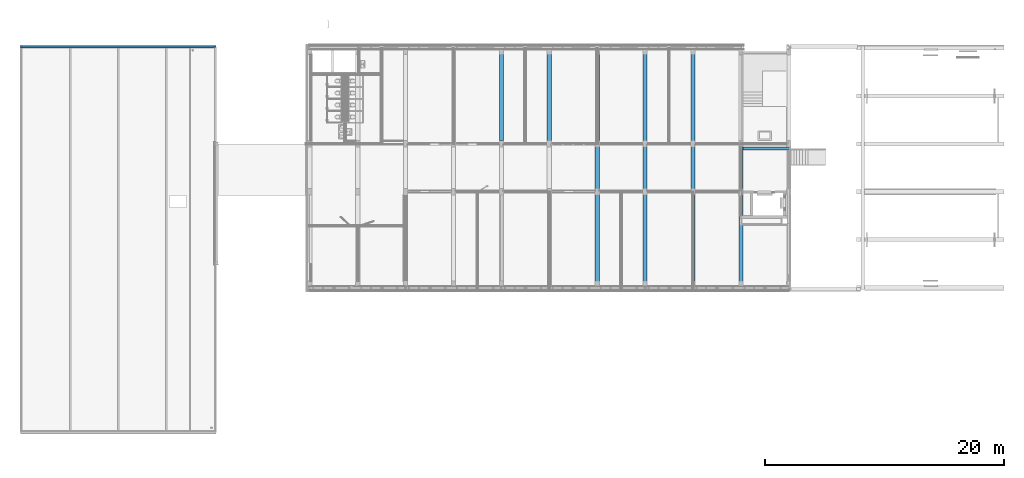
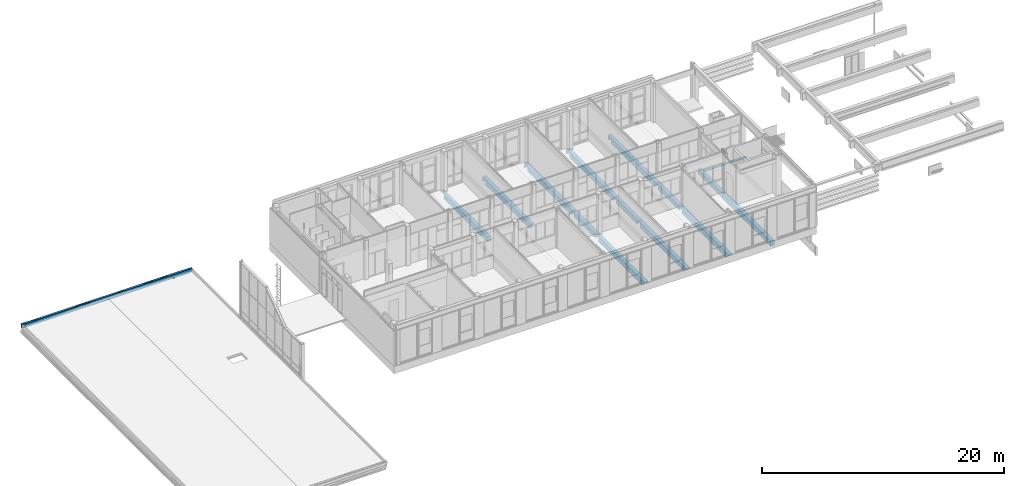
# One storey, part 9 of 54: 17 beams.
"""IFC2X3 building model written with IfcOpenShell, lengths in millimetres."""

import ifcopenshell
import ifcopenshell.guid

model = None  # the IFC model being written
_history = None  # IfcOwnerHistory: only IFC2X3 demands one
_inside = {}  # id of a spatial element -> (the spatial element, [elements in it])
_under = {}  # id of a project, library or spatial element -> (it, [spatial elements below it])
_declared = {}  # id of a project -> (the project, [libraries it declares])
_typed = {}  # id of a type object -> (the type object, [elements of that type])
_made_of = {}  # id of a material, layer set ... -> (it, [elements and type objects made of it])


def new_model(schema):
    """Start an empty IFC model of exactly this schema.

    Asked for "IFC4X3", IfcOpenShell would pick the latest addendum, in which some entities
    have other attributes; the version numbers below select the first issue.
    IFC2X3 requires an IfcOwnerHistory on every rooted entity: one is made here for all.
    """
    global model, _history
    if schema == "IFC4X3":
        model = ifcopenshell.file(schema_version=(4, 3, 0, 0))
    else:
        model = ifcopenshell.file(schema=schema)
    _inside.clear()
    _under.clear()
    _declared.clear()
    _typed.clear()
    _made_of.clear()
    _history = None
    if model.schema == "IFC2X3":
        org = make("IfcOrganization", Name="unknown")
        user = make(
            "IfcPersonAndOrganization",
            ThePerson=make("IfcPerson", FamilyName="unknown"),
            TheOrganization=org,
        )
        app = make(
            "IfcApplication",
            ApplicationDeveloper=org,
            Version="unknown",
            ApplicationFullName="unknown",
            ApplicationIdentifier="unknown",
        )
        _history = make(
            "IfcOwnerHistory",
            OwningUser=user,
            OwningApplication=app,
            ChangeAction="ADDED",
            CreationDate=0,
        )
    return model


def make(cls, **values):
    """One entity of the class cls with the attributes given. An attribute that is None is left unset."""
    return model.create_entity(
        cls, **{name: value for name, value in values.items() if value is not None}
    )


def entity(cls, *values):
    """Any entity or typed value of the class cls, its attributes in the order of the schema. None: left unset."""
    e = model.create_entity(cls)
    for i, value in enumerate(values):
        if value is not None:
            e[i] = value
    return e


def rooted(cls, **values):
    """An entity with a GlobalId (a new one), such as an element, a storey or a relation."""
    return make(cls, GlobalId=ifcopenshell.guid.new(), OwnerHistory=_history, **values)


def si_unit(unit_type, name, prefix=None):
    """IfcSIUnit, for example si_unit("LENGTHUNIT", "METRE", prefix="MILLI")."""
    return make("IfcSIUnit", UnitType=unit_type, Prefix=prefix, Name=name)


def converted_unit(unit_type, name, factor, base, dimensions=None, offset=None):
    """IfcConversionBasedUnit, such as the inch: factor (a typed value) times the base unit."""
    return make(
        "IfcConversionBasedUnit"
        if offset is None
        else "IfcConversionBasedUnitWithOffset",
        ConversionOffset=offset,
        Dimensions=None
        if dimensions is None
        else entity("IfcDimensionalExponents", *dimensions),
        UnitType=unit_type,
        Name=name,
        ConversionFactor=make(
            "IfcMeasureWithUnit", ValueComponent=factor, UnitComponent=base
        ),
    )


def derived_unit(unit_type, elements):
    """IfcDerivedUnit: a product of units, each with its exponent."""
    return make(
        "IfcDerivedUnit",
        Elements=[
            make("IfcDerivedUnitElement", Unit=unit, Exponent=power)
            for unit, power in elements
        ],
        UnitType=unit_type,
    )


def money_unit(currency):
    """IfcMonetaryUnit."""
    return make("IfcMonetaryUnit", Currency=currency)


def assignment(units):
    """IfcUnitAssignment: the units of a project."""
    return None if units is None else make("IfcUnitAssignment", Units=units)


def point(xyz):
    """IfcCartesianPoint."""
    return None if xyz is None else make("IfcCartesianPoint", Coordinates=xyz)


def direction(xyz):
    """IfcDirection."""
    return None if xyz is None else make("IfcDirection", DirectionRatios=xyz)


def frame(location, z_axis=None, x_axis=None):
    """IfcAxis2Placement3D, a coordinate frame: its origin and axes. An axis left out is left unset."""
    return make(
        "IfcAxis2Placement3D",
        Location=point(location),
        Axis=direction(z_axis),
        RefDirection=direction(x_axis),
    )


def origin_with_axes():
    """The frame at (0, 0, 0) with the z axis (0, 0, 1) and the x axis (1, 0, 0) written out."""
    return frame((0.0, 0.0, 0.0), z_axis=(0.0, 0.0, 1.0), x_axis=(1.0, 0.0, 0.0))


def place(relative_to, where):
    """IfcLocalPlacement: puts the frame where relative to a parent placement (None: the world)."""
    return make(
        "IfcLocalPlacement", PlacementRelTo=relative_to, RelativePlacement=where
    )


def context(
    kind, dimensions, precision=None, world=None, true_north=None, identifier=None
):
    """IfcGeometricRepresentationContext, for example the 3D "Model" context."""
    return make(
        "IfcGeometricRepresentationContext",
        ContextIdentifier=identifier,
        ContextType=kind,
        CoordinateSpaceDimension=dimensions,
        Precision=precision,
        WorldCoordinateSystem=world,
        TrueNorth=true_north,
    )


def subcontext(parent, identifier, kind, view, scale=None):
    """IfcGeometricRepresentationSubContext, for example "Body" below "Model"."""
    return make(
        "IfcGeometricRepresentationSubContext",
        ContextIdentifier=identifier,
        ContextType=kind,
        ParentContext=parent,
        TargetScale=scale,
        TargetView=view,
    )


def project(units=None, contexts=None):
    """IfcProject with its units and contexts."""
    return rooted(
        "IfcProject",
        Name="project",
        RepresentationContexts=contexts,
        UnitsInContext=assignment(units),
    )


def spatial(cls, under=None, at=None, **own):
    """A site, building, storey or space (cls), placed at a placement, below another one or the project."""
    s = rooted(cls, ObjectPlacement=at, **own)
    if under is not None:
        _under.setdefault(under.id(), (under, []))[1].append(s)
    return s


def faces_of(points, faces, orient=None, outer=None):
    """IfcFace entities. A face is a list of loops; a loop is a list of indices into points, from 0.

    orient and outer hold one flag for each loop. By default every Orientation is true, the
    first loop of a face is its IfcFaceOuterBound and the others are IfcFaceBound.
    """
    made = []
    for i, loops in enumerate(faces):
        bounds = []
        for j, loop in enumerate(loops):
            is_outer = j == 0 if outer is None else outer[i][j]
            bounds.append(
                make(
                    "IfcFaceOuterBound" if is_outer else "IfcFaceBound",
                    Bound=make("IfcPolyLoop", Polygon=[points[k] for k in loop]),
                    Orientation=True if orient is None else orient[i][j],
                )
            )
        made.append(make("IfcFace", Bounds=bounds))
    return made


def faceted_brep(points, faces, orient=None, outer=None, voids=None):
    """IfcFacetedBrep: a solid bounded by flat faces; with voids (closed shells), ...WithVoids."""
    shared = [point(p) for p in points]
    hull = make("IfcClosedShell", CfsFaces=faces_of(shared, faces, orient, outer))
    if voids is None:
        return make("IfcFacetedBrep", Outer=hull)
    return make(
        "IfcFacetedBrepWithVoids",
        Outer=hull,
        Voids=[
            make(cls, CfsFaces=faces_of(shared, fs, o, b)) for cls, fs, o, b in voids
        ],
    )


def shape(context_of_items, identifier, shape_type, items):
    """IfcShapeRepresentation: the items that make up one representation, for example the "Body"."""
    return make(
        "IfcShapeRepresentation",
        ContextOfItems=context_of_items,
        RepresentationIdentifier=identifier,
        RepresentationType=shape_type,
        Items=items,
    )


def material(Name=None, Category=None):
    """IfcMaterial."""
    return make("IfcMaterial", Name=Name, Category=Category)


def made_of(thing, what):
    """Note that an element or type object is made of a material, layer set ...; save() writes the relation."""
    if what is not None:
        _made_of.setdefault(what.id(), (what, []))[1].append(thing)
    return thing


def type_object(cls, material=None, **own):
    """A type object (cls), such as IfcWallType, which elements share."""
    return made_of(rooted(cls, **own), material)


def element(
    cls,
    number,
    at=None,
    inside=None,
    cuts=None,
    type_object=None,
    material=None,
    context=None,
    identifier="Body",
    shape_type=None,
    held_by="IfcProductDefinitionShape",
    body=None,
    shapes=None,
    **own,
):
    """One element of the class cls, such as IfcWall. Its Tag is "e" and its number.

    at: its placement. inside: the storey or other place that contains it. cuts: it is an
    opening in that element (IfcRelVoidsElement). A single representation is given by context,
    identifier, shape_type and body (its items); several are given by shapes. held_by: the class
    of the entity that holds the representations. save() writes the other relations.
    """
    e = rooted(cls, Tag="e%d" % number, ObjectPlacement=at, **own)
    if body is not None:
        shapes = [shape(context, identifier, shape_type, body)]
    if shapes is not None:
        e.Representation = make(held_by, Representations=shapes)
    if inside is not None:
        _inside.setdefault(inside.id(), (inside, []))[1].append(e)
    if cuts is not None:
        rooted(
            "IfcRelVoidsElement", RelatingBuildingElement=cuts, RelatedOpeningElement=e
        )
    if type_object is not None:
        _typed.setdefault(type_object.id(), (type_object, []))[1].append(e)
    return made_of(e, material)


def aggregate(whole, parts):
    """IfcRelAggregates: a whole, such as a stair, and the parts it consists of."""
    return rooted("IfcRelAggregates", RelatingObject=whole, RelatedObjects=parts)


def save(model, path):
    """Write the relations noted so far, then the file.

    IfcRelAggregates (storeys below a building ...), IfcRelContainedInSpatialStructure (elements
    in a storey), IfcRelDefinesByType, IfcRelAssociatesMaterial and IfcRelDeclares: one each for
    every whole, place, type object, material and project.
    """
    for whole, parts in _under.values():
        aggregate(whole, parts)
    for where, things in _inside.values():
        rooted(
            "IfcRelContainedInSpatialStructure",
            RelatedElements=things,
            RelatingStructure=where,
        )
    for kind, things in _typed.values():
        rooted("IfcRelDefinesByType", RelatedObjects=things, RelatingType=kind)
    for what, things in _made_of.values():
        rooted("IfcRelAssociatesMaterial", RelatedObjects=things, RelatingMaterial=what)
    for by, libraries in _declared.values():
        rooted("IfcRelDeclares", RelatingContext=by, RelatedDefinitions=libraries)
    model.write(path)


model = new_model("IFC2X3")

# Units and contexts
model_context = context("Model", 3, precision=0.01, world=origin_with_axes(), true_north=direction((0.0, 1.0)))
body_context = subcontext(model_context, "Body", "Model", "MODEL_VIEW")
ifc_project = project(units=[si_unit("LENGTHUNIT", "METRE", prefix="MILLI"), si_unit("AREAUNIT", "SQUARE_METRE"), si_unit("VOLUMEUNIT", "CUBIC_METRE"), converted_unit("PLANEANGLEUNIT", "DEGREE", entity("IfcPlaneAngleMeasure", 0.0174532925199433), si_unit("PLANEANGLEUNIT", "RADIAN"), dimensions=[0, 0, 0, 0, 0, 0, 0]), money_unit("EUR"), converted_unit("TIMEUNIT", "Year", entity("IfcTimeMeasure", 31557600.0), si_unit("TIMEUNIT", "SECOND"), dimensions=[0, 0, 1, 0, 0, 0, 0]), si_unit("MASSUNIT", "GRAM", prefix="KILO"), si_unit("THERMODYNAMICTEMPERATUREUNIT", "DEGREE_CELSIUS"), si_unit("LUMINOUSINTENSITYUNIT", "LUMEN"), si_unit("ENERGYUNIT", "JOULE", prefix="MEGA"), derived_unit("THERMALCONDUCTANCEUNIT", [(si_unit("POWERUNIT", "WATT"), 1), (si_unit("LENGTHUNIT", "METRE"), -1), (si_unit("THERMODYNAMICTEMPERATUREUNIT", "KELVIN"), -1)]), derived_unit("SPECIFICHEATCAPACITYUNIT", [(si_unit("ENERGYUNIT", "JOULE"), 1), (si_unit("MASSUNIT", "GRAM", prefix="KILO"), -1), (si_unit("THERMODYNAMICTEMPERATUREUNIT", "KELVIN"), -1)]), derived_unit("MASSDENSITYUNIT", [(si_unit("MASSUNIT", "GRAM", prefix="KILO"), 1), (si_unit("VOLUMEUNIT", "CUBIC_METRE"), -1)])], contexts=[model_context])

# Site, building, storey
site_placement = place(None, origin_with_axes())
site = spatial("IfcSite", under=ifc_project, at=site_placement, Name="<site naam>", CompositionType="ELEMENT")
building_placement = place(site_placement, origin_with_axes())
building = spatial("IfcBuilding", under=site, at=building_placement, Name="<Naam gebouw>", CompositionType="ELEMENT")
storey_placement = place(building_placement, frame((0.0, 0.0, 8500.0), z_axis=(0.0, 0.0, 1.0), x_axis=(1.0, 0.0, 0.0)))
storey = spatial("IfcBuildingStorey", under=building, at=storey_placement, Name="02 2e verdieping", CompositionType="ELEMENT", Elevation=8500.0)

# Beams
ifc_material_1 = material(Name="beton_gewapend C")
beam_type_1 = type_object("IfcBeamType", Name="beton_gewapend C 350 x 650", PredefinedType="BEAM")
beam_1_placement = place(storey_placement, frame((32000.00000000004, 20005.54614990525, -30.00000000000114), z_axis=(0.0, 0.0, 1.0), x_axis=(-1.0, 0.0, 0.0)))
element("IfcBeam", 1, at=beam_1_placement, inside=storey, type_object=beam_type_1, material=ifc_material_1, Name="28_Balk_beton_gewapend", ObjectType="BEAM", context=body_context, shape_type="Brep", body=[
    faceted_brep([(-174.9999999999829, 7999.999999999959, -169.9999999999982), (-174.9999999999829, 7730.546149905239, -169.9999999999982), (-174.9999999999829, 7730.546149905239, -650.0000000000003), (-174.9999999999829, 555.546149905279, -650.0000000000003), (-174.9999999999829, 555.546149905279, -169.9999999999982), (-174.9999999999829, 5.546149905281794, -169.9999999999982), (-174.9999999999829, 5.546149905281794, -650.0000000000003), (-174.9999999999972, 0.0, -650.0000000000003), (-174.9999999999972, 0.0, -119.9999999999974), (-175.0000000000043, 7999.999999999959, -119.9999999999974), (175.0000000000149, 7730.546149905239, -169.9999999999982), (175.0000000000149, 7999.999999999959, -169.9999999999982), (175.0000000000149, 7730.546149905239, -650.0000000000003), (175.0000000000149, 555.546149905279, -650.0000000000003), (175.0000000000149, 555.546149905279, -169.9999999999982), (175.0000000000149, 5.546149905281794, -169.9999999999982), (175.0000000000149, 5.546149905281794, -650.0000000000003), (175.0000000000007, 0.0, -650.0000000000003), (175.0000000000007, 0.0, -119.9999999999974), (175.0000000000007, 7999.999999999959, -119.9999999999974)], [[[0, 1, 2, 3, 4, 5, 6, 7, 8, 9]], [[10, 1, 0, 11]], [[12, 2, 1, 10]], [[3, 2, 12, 13]], [[14, 4, 3, 13]], [[15, 5, 4, 14]], [[16, 6, 5, 15]], [[7, 6, 16, 17]], [[7, 17, 18, 8]], [[18, 19, 9, 8]], [[19, 11, 0, 9]], [[12, 10, 11, 19, 18, 17, 16, 15, 14, 13]]]),
])
beam_2_placement = place(storey_placement, frame((28000.00000000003, 19999.99999999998, -30.00000000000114), z_axis=(0.0, 0.0, 1.0), x_axis=(-1.0, 0.0, 0.0)))
element("IfcBeam", 2, at=beam_2_placement, inside=storey, type_object=beam_type_1, material=ifc_material_1, Name="28_Balk_beton_gewapend", ObjectType="BEAM", context=body_context, shape_type="Brep", body=[
    faceted_brep([(175.0000000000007, 0.0, -119.9999999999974), (175.0000000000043, 7724.999999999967, -119.9999999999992), (-174.9999999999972, 7724.999999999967, -119.9999999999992), (-175.0000000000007, 0.0, -119.9999999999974), (175.0000000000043, 550.0000000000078, -650.0000000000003), (175.0000000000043, 7724.999999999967, -650.0000000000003), (175.0000000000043, 0.0, -169.9999999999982), (175.0000000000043, 550.0000000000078, -169.9999999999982), (-174.9999999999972, 7724.999999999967, -650.0000000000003), (-174.9999999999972, 550.0000000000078, -650.0000000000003), (-174.9999999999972, 550.0000000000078, -169.9999999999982), (-174.9999999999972, 0.0, -169.9999999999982)], [[[0, 1, 2, 3]], [[4, 5, 1, 0, 6, 7]], [[5, 8, 2, 1]], [[3, 2, 8, 9, 10, 11]], [[3, 11, 6, 0]], [[9, 8, 5, 4]], [[7, 6, 11, 10]], [[7, 10, 9, 4]]]),
])
beam_3_placement = place(storey_placement, frame((40000.00000000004, 20005.54614990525, -30.00000000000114), z_axis=(0.0, 0.0, 1.0), x_axis=(-1.0, 0.0, 0.0)))
element("IfcBeam", 3, at=beam_3_placement, inside=storey, type_object=beam_type_1, material=ifc_material_1, Name="28_Balk_beton_gewapend", ObjectType="BEAM", context=body_context, shape_type="Brep", body=[
    faceted_brep([(-174.9999999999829, 7999.999999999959, -169.9999999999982), (-174.9999999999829, 7730.546149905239, -169.9999999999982), (-174.9999999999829, 7730.546149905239, -650.0000000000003), (-174.9999999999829, 555.546149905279, -650.0000000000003), (-174.9999999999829, 555.546149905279, -169.9999999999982), (-174.9999999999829, 5.546149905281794, -169.9999999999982), (-174.9999999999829, 5.546149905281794, -650.0000000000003), (-174.9999999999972, 0.0, -650.0000000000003), (-174.9999999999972, 0.0, -119.9999999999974), (-175.0000000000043, 7999.999999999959, -119.9999999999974), (175.0000000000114, 7730.546149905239, -169.9999999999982), (175.0000000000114, 7999.999999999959, -169.9999999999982), (175.0000000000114, 7730.546149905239, -650.0000000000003), (175.0000000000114, 555.546149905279, -650.0000000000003), (175.0000000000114, 555.546149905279, -169.9999999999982), (175.0000000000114, 5.546149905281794, -169.9999999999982), (175.0000000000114, 5.546149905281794, -650.0000000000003), (174.9999999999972, 0.0, -650.0000000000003), (174.9999999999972, 0.0, -119.9999999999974), (174.9999999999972, 7999.999999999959, -119.9999999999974)], [[[0, 1, 2, 3, 4, 5, 6, 7, 8, 9]], [[10, 1, 0, 11]], [[12, 2, 1, 10]], [[3, 2, 12, 13]], [[14, 4, 3, 13]], [[15, 5, 4, 14]], [[16, 6, 5, 15]], [[7, 6, 16, 17]], [[7, 17, 18, 8]], [[18, 19, 9, 8]], [[19, 11, 0, 9]], [[12, 10, 11, 19, 18, 17, 16, 15, 14, 13]]]),
])
beam_4_placement = place(storey_placement, frame((44000.00000000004, 8000.000000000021, -30.00000000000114), z_axis=(0.0, 0.0, 1.0), x_axis=(-1.0, 0.0, 0.0)))
element("IfcBeam", 4, at=beam_4_placement, inside=storey, type_object=beam_type_1, material=ifc_material_1, Name="28_Balk_beton_gewapend", ObjectType="BEAM", context=body_context, shape_type="Brep", body=[
    faceted_brep([(-174.9999999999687, 7994.453850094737, -169.9999999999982), (-174.9999999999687, 7450.000000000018, -169.9999999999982), (-174.9999999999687, 7450.000000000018, -650.0000000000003), (-174.9999999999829, 275.000000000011, -650.0000000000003), (-174.9999999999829, 275.000000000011, -169.9999999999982), (-174.9999999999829, 0.0, -169.9999999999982), (-174.9999999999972, 0.0, -119.9999999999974), (-175.0000000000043, 7994.453850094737, -119.9999999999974), (175.0000000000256, 7450.000000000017, -169.9999999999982), (175.0000000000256, 7994.453850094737, -169.9999999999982), (175.0000000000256, 7450.000000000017, -650.0000000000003), (175.0000000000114, 275.000000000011, -650.0000000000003), (175.0000000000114, 275.000000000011, -169.9999999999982), (175.0000000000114, 0.0, -169.9999999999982), (174.9999999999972, 0.0, -119.9999999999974), (174.9999999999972, 7994.453850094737, -119.9999999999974)], [[[0, 1, 2, 3, 4, 5, 6, 7]], [[8, 1, 0, 9]], [[10, 2, 1, 8]], [[3, 2, 10, 11]], [[12, 4, 3, 11]], [[12, 13, 5, 4]], [[6, 5, 13, 14]], [[14, 15, 7, 6]], [[15, 9, 0, 7]], [[10, 8, 9, 15, 14, 13, 12, 11]]]),
])
beam_5_placement = place(storey_placement, frame((36000.00000000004, 8000.000000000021, -30.00000000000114), z_axis=(0.0, 0.0, 1.0), x_axis=(-1.0, 0.0, 0.0)))
element("IfcBeam", 5, at=beam_5_placement, inside=storey, type_object=beam_type_1, material=ifc_material_1, Name="28_Balk_beton_gewapend", ObjectType="BEAM", context=body_context, shape_type="Brep", body=[
    faceted_brep([(-174.9999999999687, 7994.453850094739, -169.9999999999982), (-174.9999999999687, 7450.000000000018, -169.9999999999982), (-174.9999999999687, 7450.000000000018, -650.0000000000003), (-174.9999999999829, 275.000000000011, -650.0000000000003), (-174.9999999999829, 275.000000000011, -169.9999999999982), (-174.9999999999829, 0.0, -169.9999999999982), (-174.9999999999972, 0.0, -119.9999999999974), (-175.0000000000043, 7994.453850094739, -119.9999999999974), (175.0000000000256, 7450.000000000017, -169.9999999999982), (175.0000000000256, 7994.453850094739, -169.9999999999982), (175.0000000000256, 7450.000000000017, -650.0000000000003), (175.0000000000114, 275.000000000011, -650.0000000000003), (175.0000000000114, 275.000000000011, -169.9999999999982), (175.0000000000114, 0.0, -169.9999999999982), (174.9999999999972, 0.0, -119.9999999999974), (174.9999999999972, 7994.453850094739, -119.9999999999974)], [[[0, 1, 2, 3, 4, 5, 6, 7]], [[8, 1, 0, 9]], [[10, 2, 1, 8]], [[3, 2, 10, 11]], [[12, 4, 3, 11]], [[12, 13, 5, 4]], [[6, 5, 13, 14]], [[14, 15, 7, 6]], [[15, 9, 0, 7]], [[10, 8, 9, 15, 14, 13, 12, 11]]]),
])
beam_6_placement = place(storey_placement, frame((44000.00000000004, 20005.54614990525, -30.00000000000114), z_axis=(0.0, 0.0, 1.0), x_axis=(-1.0, 0.0, 0.0)))
element("IfcBeam", 6, at=beam_6_placement, inside=storey, type_object=beam_type_1, material=ifc_material_1, Name="28_Balk_beton_gewapend", ObjectType="BEAM", context=body_context, shape_type="Brep", body=[
    faceted_brep([(-174.9999999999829, 7999.999999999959, -169.9999999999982), (-174.9999999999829, 7730.546149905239, -169.9999999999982), (-174.9999999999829, 7730.546149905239, -650.0000000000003), (-174.9999999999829, 555.546149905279, -650.0000000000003), (-174.9999999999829, 555.546149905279, -169.9999999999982), (-174.9999999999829, 5.546149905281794, -169.9999999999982), (-174.9999999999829, 5.546149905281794, -650.0000000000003), (-174.9999999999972, 0.0, -650.0000000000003), (-174.9999999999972, 0.0, -119.9999999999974), (-175.0000000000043, 7999.999999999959, -119.9999999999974), (175.0000000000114, 7730.546149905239, -169.9999999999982), (175.0000000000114, 7999.999999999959, -169.9999999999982), (175.0000000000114, 7730.546149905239, -650.0000000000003), (175.0000000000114, 555.546149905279, -650.0000000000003), (175.0000000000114, 555.546149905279, -169.9999999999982), (175.0000000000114, 5.546149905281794, -169.9999999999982), (175.0000000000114, 5.546149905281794, -650.0000000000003), (174.9999999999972, 0.0, -650.0000000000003), (174.9999999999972, 0.0, -119.9999999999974), (174.9999999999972, 7999.999999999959, -119.9999999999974)], [[[0, 1, 2, 3, 4, 5, 6, 7, 8, 9]], [[10, 1, 0, 11]], [[12, 2, 1, 10]], [[3, 2, 12, 13]], [[14, 4, 3, 13]], [[15, 5, 4, 14]], [[16, 6, 5, 15]], [[7, 6, 16, 17]], [[7, 17, 18, 8]], [[18, 19, 9, 8]], [[19, 11, 0, 9]], [[12, 10, 11, 19, 18, 17, 16, 15, 14, 13]]]),
])
beam_7_placement = place(storey_placement, frame((40000.00000000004, 8000.000000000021, -30.00000000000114), z_axis=(0.0, 0.0, 1.0), x_axis=(-1.0, 0.0, 0.0)))
element("IfcBeam", 7, at=beam_7_placement, inside=storey, type_object=beam_type_1, material=ifc_material_1, Name="28_Balk_beton_gewapend", ObjectType="BEAM", context=body_context, shape_type="Brep", body=[
    faceted_brep([(-174.9999999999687, 7994.453850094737, -169.9999999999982), (-174.9999999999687, 7450.000000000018, -169.9999999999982), (-174.9999999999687, 7450.000000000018, -650.0000000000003), (-174.9999999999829, 275.000000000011, -650.0000000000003), (-174.9999999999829, 275.000000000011, -169.9999999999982), (-174.9999999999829, 0.0, -169.9999999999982), (-174.9999999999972, 0.0, -119.9999999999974), (-175.0000000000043, 7994.453850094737, -119.9999999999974), (175.0000000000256, 7450.000000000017, -169.9999999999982), (175.0000000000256, 7994.453850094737, -169.9999999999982), (175.0000000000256, 7450.000000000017, -650.0000000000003), (175.0000000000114, 275.000000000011, -650.0000000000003), (175.0000000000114, 275.000000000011, -169.9999999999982), (175.0000000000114, 0.0, -169.9999999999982), (174.9999999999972, 0.0, -119.9999999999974), (174.9999999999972, 7994.453850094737, -119.9999999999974)], [[[0, 1, 2, 3, 4, 5, 6, 7]], [[8, 1, 0, 9]], [[10, 2, 1, 8]], [[3, 2, 10, 11]], [[12, 4, 3, 11]], [[12, 13, 5, 4]], [[6, 5, 13, 14]], [[14, 15, 7, 6]], [[15, 9, 0, 7]], [[10, 8, 9, 15, 14, 13, 12, 11]]]),
])
beam_8_placement = place(storey_placement, frame((36000.00000000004, 20005.54614990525, -30.00000000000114), z_axis=(0.0, 0.0, 1.0), x_axis=(-1.0, 0.0, 0.0)))
element("IfcBeam", 8, at=beam_8_placement, inside=storey, type_object=beam_type_1, material=ifc_material_1, Name="28_Balk_beton_gewapend", ObjectType="BEAM", context=body_context, shape_type="Brep", body=[
    faceted_brep([(-174.9999999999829, 7999.999999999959, -169.9999999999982), (-174.9999999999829, 7730.546149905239, -169.9999999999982), (-174.9999999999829, 7730.546149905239, -650.0000000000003), (-174.9999999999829, 555.546149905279, -650.0000000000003), (-174.9999999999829, 555.546149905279, -169.9999999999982), (-174.9999999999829, 5.546149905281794, -169.9999999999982), (-174.9999999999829, 5.546149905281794, -650.0000000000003), (-174.9999999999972, 0.0, -650.0000000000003), (-174.9999999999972, 0.0, -119.9999999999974), (-175.0000000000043, 7999.999999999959, -119.9999999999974), (175.0000000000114, 7730.546149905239, -169.9999999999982), (175.0000000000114, 7999.999999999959, -169.9999999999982), (175.0000000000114, 7730.546149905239, -650.0000000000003), (175.0000000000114, 555.546149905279, -650.0000000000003), (175.0000000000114, 555.546149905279, -169.9999999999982), (175.0000000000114, 5.546149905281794, -169.9999999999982), (175.0000000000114, 5.546149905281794, -650.0000000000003), (174.9999999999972, 0.0, -650.0000000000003), (174.9999999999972, 0.0, -119.9999999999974), (174.9999999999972, 7999.999999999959, -119.9999999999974)], [[[0, 1, 2, 3, 4, 5, 6, 7, 8, 9]], [[10, 1, 0, 11]], [[12, 2, 1, 10]], [[3, 2, 12, 13]], [[14, 4, 3, 13]], [[15, 5, 4, 14]], [[16, 6, 5, 15]], [[7, 6, 16, 17]], [[7, 17, 18, 8]], [[18, 19, 9, 8]], [[19, 11, 0, 9]], [[12, 10, 11, 19, 18, 17, 16, 15, 14, 13]]]),
])
beam_9_placement = place(storey_placement, frame((48000.00000000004, 8000.000000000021, -30.00000000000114), z_axis=(0.0, 0.0, 1.0), x_axis=(-1.0, 0.0, 0.0)))
element("IfcBeam", 9, at=beam_9_placement, inside=storey, type_object=beam_type_1, material=ifc_material_1, Name="28_Balk_beton_gewapend", ObjectType="BEAM", context=body_context, shape_type="Brep", body=[
    faceted_brep([(174.9999999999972, 0.0, -650.0000000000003), (174.9999999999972, 0.0, -119.9999999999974), (-174.9999999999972, 0.0, -119.9999999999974), (-174.9999999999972, 0.0, -650.0000000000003), (174.9999999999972, 7994.453850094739, -650.0000000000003), (174.9999999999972, 7994.453850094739, -119.9999999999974), (-175.0000000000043, 7994.453850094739, -119.9999999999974), (-175.0000000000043, 7994.453850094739, -650.0000000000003)], [[[0, 1, 2, 3]], [[4, 5, 1, 0]], [[5, 6, 2, 1]], [[3, 2, 6, 7]], [[0, 3, 7, 4]], [[7, 6, 5, 4]]]),
])
beam_type_2 = type_object("IfcBeamType", Name="beton_gewapend C 350 x 600", PredefinedType="BEAM")
for number, where, z_axis, x_axis, name in (
    (10, (36000.00000000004, 12005.54614990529, -30.00000000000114), (0.0, 0.0, 1.0), (-1.0, 0.0, 0.0), "28_Balk_beton_gewapend"),
    (11, (40000.00000000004, 12005.54614990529, -30.00000000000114), (0.0, 0.0, 1.0), (-1.0, 0.0, 0.0), "28_Balk_beton_gewapend"),
):
    element("IfcBeam", number, at=place(storey_placement, frame(where, z_axis=z_axis, x_axis=x_axis)), inside=storey, type_object=beam_type_2, material=ifc_material_1, Name=name, ObjectType="BEAM", context=body_context, shape_type="Brep", body=[
        faceted_brep([(-174.9999999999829, 4005.546149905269, -169.9999999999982), (-174.9999999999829, 3730.54614990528, -169.9999999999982), (-174.9999999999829, 3730.54614990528, -599.9999999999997), (-174.9999999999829, 280.5461499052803, -599.9999999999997), (-174.9999999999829, 280.5461499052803, -169.9999999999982), (-174.9999999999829, 0.0, -169.9999999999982), (-174.9999999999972, 0.0, -119.9999999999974), (-174.9999999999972, 4005.546149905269, -119.9999999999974), (175.0000000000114, 3730.54614990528, -169.9999999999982), (175.0000000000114, 4005.546149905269, -169.9999999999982), (175.0000000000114, 3730.54614990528, -599.9999999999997), (175.0000000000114, 280.5461499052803, -599.9999999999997), (175.0000000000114, 280.5461499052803, -169.9999999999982), (175.0000000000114, 0.0, -169.9999999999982), (174.9999999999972, 0.0, -119.9999999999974), (174.9999999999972, 4005.546149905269, -119.9999999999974)], [[[0, 1, 2, 3, 4, 5, 6, 7]], [[8, 1, 0, 9]], [[10, 2, 1, 8]], [[3, 2, 10, 11]], [[12, 4, 3, 11]], [[12, 13, 5, 4]], [[6, 5, 13, 14]], [[14, 15, 7, 6]], [[15, 9, 0, 7]], [[10, 8, 9, 15, 14, 13, 12, 11]]]),
    ])
beam_10_placement = place(storey_placement, frame((48000.00000000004, 12005.54614990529, -30.00000000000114), z_axis=(0.0, 0.0, 1.0), x_axis=(-1.0, 0.0, 0.0)))
element("IfcBeam", 12, at=beam_10_placement, inside=storey, type_object=beam_type_2, material=ifc_material_1, Name="28_Balk_beton_gewapend", ObjectType="BEAM", context=body_context, shape_type="Brep", body=[
    faceted_brep([(174.9999999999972, 0.0, -599.9999999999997), (174.9999999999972, 0.0, -119.9999999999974), (-174.9999999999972, 0.0, -119.9999999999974), (-174.9999999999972, 0.0, -599.9999999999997), (174.9999999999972, 4005.546149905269, -599.9999999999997), (174.9999999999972, 4005.546149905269, -119.9999999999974), (-174.9999999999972, 4005.546149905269, -119.9999999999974), (-174.9999999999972, 4005.546149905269, -599.9999999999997)], [[[0, 1, 2, 3]], [[4, 5, 1, 0]], [[5, 6, 2, 1]], [[3, 2, 6, 7]], [[0, 3, 7, 4]], [[7, 6, 5, 4]]]),
])
beam_11_placement = place(storey_placement, frame((44000.00000000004, 12005.54614990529, -30.00000000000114), z_axis=(0.0, 0.0, 1.0), x_axis=(-1.0, 0.0, 0.0)))
element("IfcBeam", 13, at=beam_11_placement, inside=storey, type_object=beam_type_2, material=ifc_material_1, Name="28_Balk_beton_gewapend", ObjectType="BEAM", context=body_context, shape_type="Brep", body=[
    faceted_brep([(-174.9999999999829, 4005.546149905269, -169.9999999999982), (-174.9999999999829, 3730.54614990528, -169.9999999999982), (-174.9999999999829, 3730.54614990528, -599.9999999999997), (-174.9999999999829, 280.5461499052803, -599.9999999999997), (-174.9999999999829, 280.5461499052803, -169.9999999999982), (-174.9999999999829, 0.0, -169.9999999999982), (-174.9999999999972, 0.0, -119.9999999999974), (-174.9999999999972, 4005.546149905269, -119.9999999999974), (175.0000000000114, 3730.54614990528, -169.9999999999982), (175.0000000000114, 4005.546149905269, -169.9999999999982), (175.0000000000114, 3730.54614990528, -599.9999999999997), (175.0000000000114, 280.5461499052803, -599.9999999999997), (175.0000000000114, 280.5461499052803, -169.9999999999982), (175.0000000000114, 0.0, -169.9999999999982), (174.9999999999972, 0.0, -119.9999999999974), (174.9999999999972, 4005.546149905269, -119.9999999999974)], [[[0, 1, 2, 3, 4, 5, 6, 7]], [[8, 1, 0, 9]], [[10, 2, 1, 8]], [[3, 2, 10, 11]], [[12, 4, 3, 11]], [[12, 13, 5, 4]], [[6, 5, 13, 14]], [[14, 15, 7, 6]], [[15, 9, 0, 7]], [[10, 8, 9, 15, 14, 13, 12, 11]]]),
])
beam_type_3 = type_object("IfcBeamType", Name="beton_gewapend C 250 x 170", PredefinedType="BEAM")
beam_12_placement = place(storey_placement, frame((48000.00000000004, 11725.00000000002, -30.00000000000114), z_axis=(0.0, 0.0, 1.0), x_axis=(0.0, -1.0, 0.0)))
element("IfcBeam", 14, at=beam_12_placement, inside=storey, type_object=beam_type_3, material=ifc_material_1, Name="28_Balk_beton_gewapend", ObjectType="BEAM", context=body_context, shape_type="Brep", body=[
    faceted_brep([(0.0, 174.9999999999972, -169.9999999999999), (0.0, 174.9999999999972, -119.9999999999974), (0.0, 3984.999999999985, -119.9999999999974), (0.0, 4174.999999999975, -119.9999999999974), (0.0, 4174.999999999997, -169.9999999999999), (250.0, 174.9999999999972, -169.9999999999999), (250.0, 174.9999999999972, -119.9999999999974), (250.0, 4174.999999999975, -119.9999999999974), (250.0, 4174.999999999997, -169.9999999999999)], [[[0, 1, 2, 3, 4]], [[5, 6, 1, 0]], [[6, 7, 3, 2, 1]], [[4, 3, 7, 8]], [[4, 8, 5, 0]], [[8, 7, 6, 5]]]),
])
ifc_material_2 = material(Name="staal C")
beam_type_4 = type_object("IfcBeamType", Name="Profiel IPN algemeen 100 x 96", PredefinedType="BEAM")
beam_13_placement = place(storey_placement, frame((-11999.99999999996, 20154.99988971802, -84.26404281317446), z_axis=(0.0, 0.0, 1.0), x_axis=(0.0, -1.0, 0.0)))
element("IfcBeam", 15, at=beam_13_placement, inside=storey, type_object=beam_type_4, material=ifc_material_2, Name="28_Balk_Profiel", ObjectType="BEAM", context=body_context, shape_type="Brep", body=[
    faceted_brep([(-50.00006930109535, 0.0, 0.0), (-50.00006930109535, 16000.04446815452, 0.0), (-50.0000347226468, 16000.04446815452, -8.000003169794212), (-50.00003472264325, 0.0, -8.000003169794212), (50.00006930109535, 0.0, 0.0), (50.0000693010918, 16000.04446815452, 0.0), (50.00003472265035, 16000.04446815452, -8.000003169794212), (2.499965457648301, 16000.04446815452, -8.000003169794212), (2.499965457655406, 16000.04446815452, -87.99999719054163), (50.0000347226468, 16000.04446815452, -87.99999719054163), (50.0000693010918, 16000.04446815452, -96.0000004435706), (-50.00006930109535, 16000.04446815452, -96.0000004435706), (-50.00003472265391, 16000.04446815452, -87.99999719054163), (-2.499965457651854, 16000.04446815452, -87.99999719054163), (-2.499965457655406, 16000.04446815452, -8.000003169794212), (-2.499965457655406, 0.0, -8.000003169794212), (-2.499965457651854, 0.0, -87.99999719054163), (-50.00003472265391, 0.0, -87.99999719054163), (-50.00006930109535, 0.0, -96.0000004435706), (50.00006930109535, 0.0, -96.0000004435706), (50.0000347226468, 0.0, -87.99999719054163), (2.499965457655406, 0.0, -87.99999719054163), (2.499965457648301, 0.0, -8.000003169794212), (50.00003472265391, 0.0, -8.000003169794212)], [[[0, 1, 2, 3]], [[4, 5, 1, 0]], [[2, 1, 5, 6, 7, 8, 9, 10, 11, 12, 13, 14]], [[3, 2, 14, 15]], [[4, 0, 3, 15, 16, 17, 18, 19, 20, 21, 22, 23]], [[23, 6, 5, 4]], [[22, 7, 6, 23]], [[21, 8, 7, 22]], [[20, 9, 8, 21]], [[19, 10, 9, 20]], [[18, 11, 10, 19]], [[17, 12, 11, 18]], [[16, 13, 12, 17]], [[15, 14, 13, 16]]]),
])
ifc_material_3 = material(Name="ALG - BUITENAFWERKING")
beam_type_5 = type_object("IfcBeamType", Name="ALG - BUITENAFWERKING 145 x 332", PredefinedType="BEAM")
beam_14_placement = place(storey_placement, frame((4045.045835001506, 20034.99295147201, -70.00000000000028), z_axis=(0.0, 0.0, 1.0), x_axis=(0.0, 1.0, 0.0)))
element("IfcBeam", 16, at=beam_14_placement, inside=storey, type_object=beam_type_5, material=ifc_material_3, Name="47_Balk_ALG", ObjectType="BEAM", context=body_context, shape_type="Brep", body=[
    faceted_brep([(145.0015634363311, 16200.03946249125, 332.0668922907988), (10.00841295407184, 16200.03946249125, 332.0668922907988), (10.00841295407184, 16080.03946249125, 332.0668922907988), (0.0, 16080.03946249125, 332.0668922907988), (0.0, -120.000000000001, 332.0668922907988), (145.0015634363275, -120.000000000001, 332.0668922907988), (145.0015634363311, 16200.03946249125, 0.0), (10.00841295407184, 16200.03946249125, 0.0), (10.00841295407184, 16080.03946249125, 0.0), (0.0, 16080.03946249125, 0.0), (0.0, -120.000000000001, 330.0000000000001), (0.0, 0.0, 0.0), (0.0, 0.0, 330.0000000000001), (10.00841295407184, -120.000000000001, 330.0000000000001), (10.00841295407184, -120.000000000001, 0.0), (145.0015634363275, -120.000000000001, 0.0), (10.00841295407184, 0.0, 0.0), (10.00841295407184, 0.0, 330.0000000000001)], [[[0, 1, 2, 3, 4, 5]], [[0, 6, 7, 1]], [[7, 8, 2, 1]], [[8, 9, 3, 2]], [[10, 4, 3, 9, 11, 12]], [[5, 4, 10, 13, 14, 15]], [[15, 6, 0, 5]], [[11, 9, 8, 7, 6, 15, 14, 16]], [[16, 17, 12, 11]], [[10, 12, 17, 13]], [[13, 17, 16, 14]]]),
])
beam_type_6 = type_object("IfcBeamType", Name="ALG - BUITENAFWERKING 170 x 18", PredefinedType="BEAM")
beam_15_placement = place(storey_placement, frame((4045.045835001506, 20034.99301072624, 262.0668922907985), z_axis=(0.0, 0.0, 1.0), x_axis=(0.0, 1.0, 0.0)))
element("IfcBeam", 17, at=beam_15_placement, inside=storey, type_object=beam_type_6, material=ifc_material_3, Name="47_Balk_ALG", ObjectType="BEAM", context=body_context, shape_type="Brep", body=[
    faceted_brep([(170.0095469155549, 0.0, 17.9987661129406), (170.0095469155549, 16200.03946249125, 17.9987661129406), (10.00835369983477, 16200.03946249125, 18.00065762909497), (10.00835369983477, 16080.03946249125, 18.00065762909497), (0.0, 16080.03946249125, 18.00065762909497), (0.0, 0.0, 17.9987661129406), (170.0095469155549, 0.0, 0.0), (170.0095469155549, 16200.03946249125, 0.0), (10.00835369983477, 16200.03946249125, 0.0), (10.00835369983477, 16080.03946249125, 0.0), (0.0, 16080.03946249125, 0.0), (0.0, 0.0, 0.0)], [[[0, 1, 2, 3, 4, 5]], [[6, 7, 1, 0]], [[2, 1, 7, 8]], [[2, 8, 9, 3]], [[3, 9, 10, 4]], [[10, 11, 5, 4]], [[6, 0, 5, 11]], [[6, 11, 10, 9, 8, 7]]]),
])

save(model, "model.ifc")
